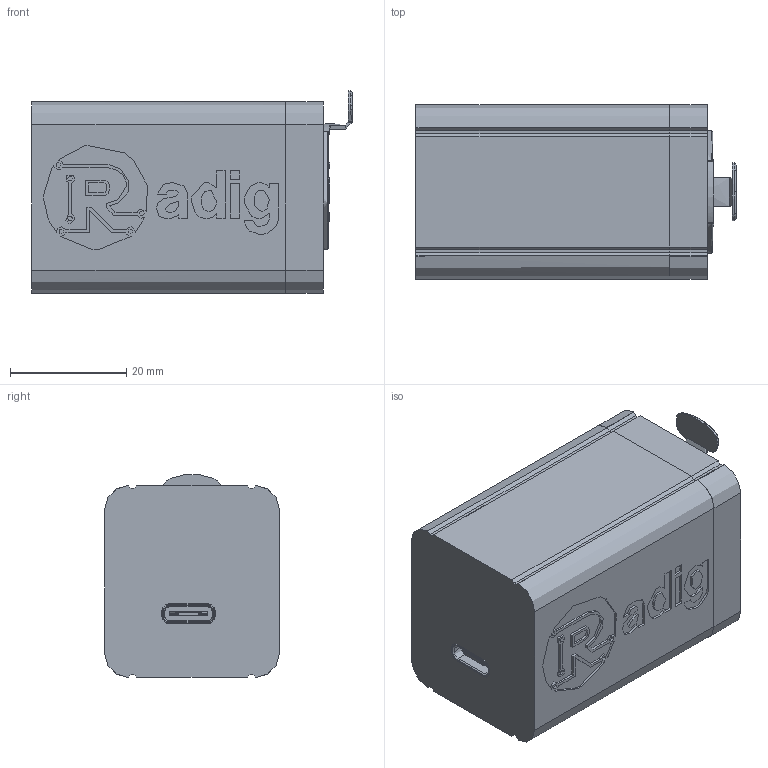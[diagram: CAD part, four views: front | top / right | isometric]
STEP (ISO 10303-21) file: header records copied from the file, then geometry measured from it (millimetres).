
FILE_DESCRIPTION(('STEP AP214'),'1');
FILE_NAME('ESP32_RDM_DMX_NODE.stp','2026-04-23T18:44:23',(' '),(' '),'Spatial InterOp 3D',' ',' ');
FILE_SCHEMA(('AUTOMOTIVE_DESIGN { 1 0 10303 214 1 1 1 1 }'));
Length unit declared in the file: metre
Products named in the file (10): ESP32_RDM_DMX_NODE; nc3faah2; COMPOUND; COMPOUND-0; XIAO-ESP32S3 v2; R_0805_2012Metric; C_0805_2012Metric; SOIC-8_3.9x4.9mm_P1.27mm; ESP32_DMX_NODE_PCB
Assembly tree (14 placements, depth 3):
  ESP32_RDM_DMX_NODE
    ESP32_RDM_DMX_NODE
    nc3faah2
      COMPOUND
      COMPOUND-0
    XIAO-ESP32S3 v2
    R_0805_2012Metric  x6
    C_0805_2012Metric
    SOIC-8_3.9x4.9mm_P1.27mm
    ESP32_DMX_NODE_PCB
Bounding box: 55.23 x 30 x 34.89 mm (x, y, z)
Volume: 21596.6 mm3; surface area: 27044 mm2
Topology: 54 solids, 375 shells, 3124 faces, 9178 edges, 6515 vertices
Faces by surface type: plane 1934, cylinder 661, bspline 362, torus 74, cone 60, sphere 28, extrusion 5
Full cylindrical faces by diameter (mm): 0.5 x3, 0.6 x2, 0.75 x14, 0.889 x14, 1.2 x2, 1.5 x6, 1.524 x8, 1.6 x4, 1.72 x1, 1.86 x1, 2 x2, 2.19 x1, 2.35 x6, 2.5 x4, 3 x3, 22 x1
Entity records: 131804 total; most frequent: CARTESIAN_POINT 29297, ORIENTED_EDGE 15832, DIRECTION 14578, EDGE_CURVE 8747, VERTEX_POINT 6254, VECTOR 6110, LINE 6105, AXIS2_PLACEMENT_3D 4234
